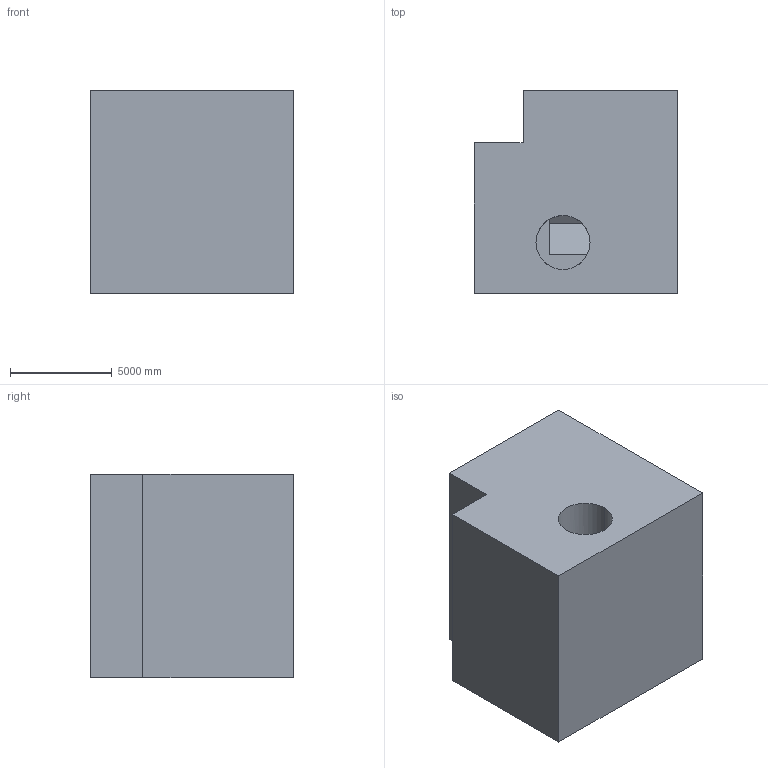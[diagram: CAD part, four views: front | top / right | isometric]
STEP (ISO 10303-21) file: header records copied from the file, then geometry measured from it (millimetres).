
FILE_DESCRIPTION (( 'STEP AP203' ), '1' );
FILE_NAME ('320.STEP', '2022-07-28T14:19:48', ( 'user' ), ( '' ), 'SwSTEP 2.0', 'SolidWorks 2021', '' );
FILE_SCHEMA (( 'CONFIG_CONTROL_DESIGN' ));
Length unit declared in the file: centimetre
Products named in the file (1): 320
Bounding box: 10000 x 10000 x 10000 mm (x, y, z)
Volume: 860006185480.8 mm3; surface area: 726801178 mm2
Topology: 1 solids, 1 shells, 20 faces, 54 edges, 36 vertices
Faces by surface type: plane 18, cylinder 2
Entity records: 707 total; most frequent: CARTESIAN_POINT 126, ORIENTED_EDGE 108, DIRECTION 95, EDGE_CURVE 54, VECTOR 45, LINE 45, VERTEX_POINT 36, AXIS2_PLACEMENT_3D 25
